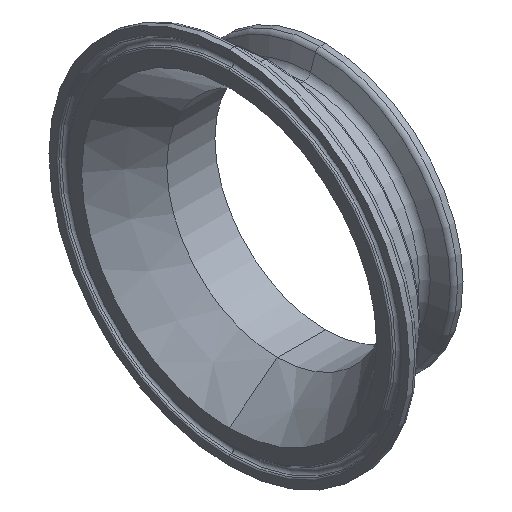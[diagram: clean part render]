
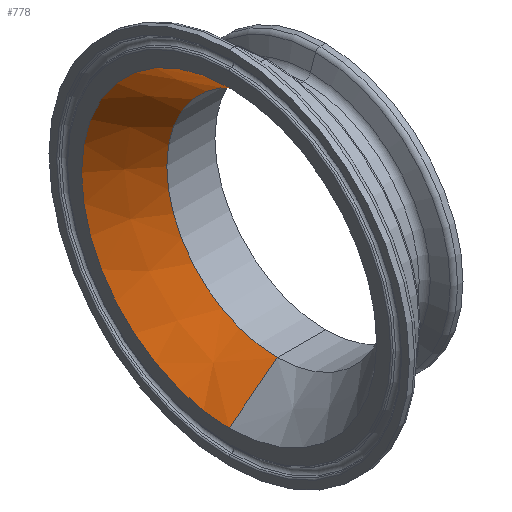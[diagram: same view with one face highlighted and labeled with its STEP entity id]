
A CAD part, isometric view. The second image highlights one B-rep face of the part: STEP entity #778.
In plain terms, the highlighted conical face has half-angle 37.639 degrees and reference radius 48.692 mm.
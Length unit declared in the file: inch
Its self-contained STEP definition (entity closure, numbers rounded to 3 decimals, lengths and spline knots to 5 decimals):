
#57 = CIRCLE ( 'NONE', #1328, 1.435 ) ;
#99 = VERTEX_POINT ( 'NONE', #144 ) ;
#144 = CARTESIAN_POINT ( 'NONE',  ( 0.625, 0., 1.435 ) ) ;
#155 = DIRECTION ( 'NONE',  ( -0.792, 0., -0.611 ) ) ;
#213 = ORIENTED_EDGE ( 'NONE', *, *, #320, .F. ) ;
#251 = CARTESIAN_POINT ( 'NONE',  ( 0.625, 0., -1.435 ) ) ;
#283 = CARTESIAN_POINT ( 'NONE',  ( 0., 0., 1.917 ) ) ;
#298 = ORIENTED_EDGE ( 'NONE', *, *, #625, .T. ) ;
#319 = LINE ( 'NONE', #867, #768 ) ;
#320 = EDGE_CURVE ( 'NONE', #450, #787, #319, .T. ) ;
#331 = CARTESIAN_POINT ( 'NONE',  ( 0., 0., 1.917 ) ) ;
#339 = DIRECTION ( 'NONE',  ( -0.792, 0., 0.611 ) ) ;
#436 = DIRECTION ( 'NONE',  ( -1., 0., 0. ) ) ;
#450 = VERTEX_POINT ( 'NONE', #251 ) ;
#525 = CIRCLE ( 'NONE', #1302, 1.917 ) ;
#555 = FACE_OUTER_BOUND ( 'NONE', #1025, .T. ) ;
#598 = VERTEX_POINT ( 'NONE', #283 ) ;
#611 = AXIS2_PLACEMENT_3D ( 'NONE', #637, #436, #972 ) ;
#625 = EDGE_CURVE ( 'NONE', #99, #598, #1287, .T. ) ;
#637 = CARTESIAN_POINT ( 'NONE',  ( 0., 0., 0. ) ) ;
#653 = CARTESIAN_POINT ( 'NONE',  ( 0., 0., -1.917 ) ) ;
#671 = EDGE_CURVE ( 'NONE', #598, #787, #525, .T. ) ;
#768 = VECTOR ( 'NONE', #155, 39.37008 ) ;
#778 = ADVANCED_FACE ( 'NONE', ( #555 ), #1278, .F. ) ;
#787 = VERTEX_POINT ( 'NONE', #653 ) ;
#838 = CARTESIAN_POINT ( 'NONE',  ( 0., 0., 0. ) ) ;
#845 = DIRECTION ( 'NONE',  ( 0., 0., 1. ) ) ;
#867 = CARTESIAN_POINT ( 'NONE',  ( 0., 0., -1.917 ) ) ;
#901 = VECTOR ( 'NONE', #339, 39.37008 ) ;
#972 = DIRECTION ( 'NONE',  ( 0., 0., 1. ) ) ;
#1025 = EDGE_LOOP ( 'NONE', ( #213, #1341, #298, #1051 ) ) ;
#1051 = ORIENTED_EDGE ( 'NONE', *, *, #671, .T. ) ;
#1110 = CARTESIAN_POINT ( 'NONE',  ( 0.625, 0., 0. ) ) ;
#1114 = EDGE_CURVE ( 'NONE', #99, #450, #57, .T. ) ;
#1152 = DIRECTION ( 'NONE',  ( -1., 0., 0. ) ) ;
#1224 = DIRECTION ( 'NONE',  ( 0., 0., 1. ) ) ;
#1278 = CONICAL_SURFACE ( 'NONE', #611, 1.917, 0.657 ) ;
#1287 = LINE ( 'NONE', #331, #901 ) ;
#1302 = AXIS2_PLACEMENT_3D ( 'NONE', #838, #1152, #845 ) ;
#1328 = AXIS2_PLACEMENT_3D ( 'NONE', #1110, #1335, #1224 ) ;
#1335 = DIRECTION ( 'NONE',  ( -1., 0., 0. ) ) ;
#1341 = ORIENTED_EDGE ( 'NONE', *, *, #1114, .F. ) ;
